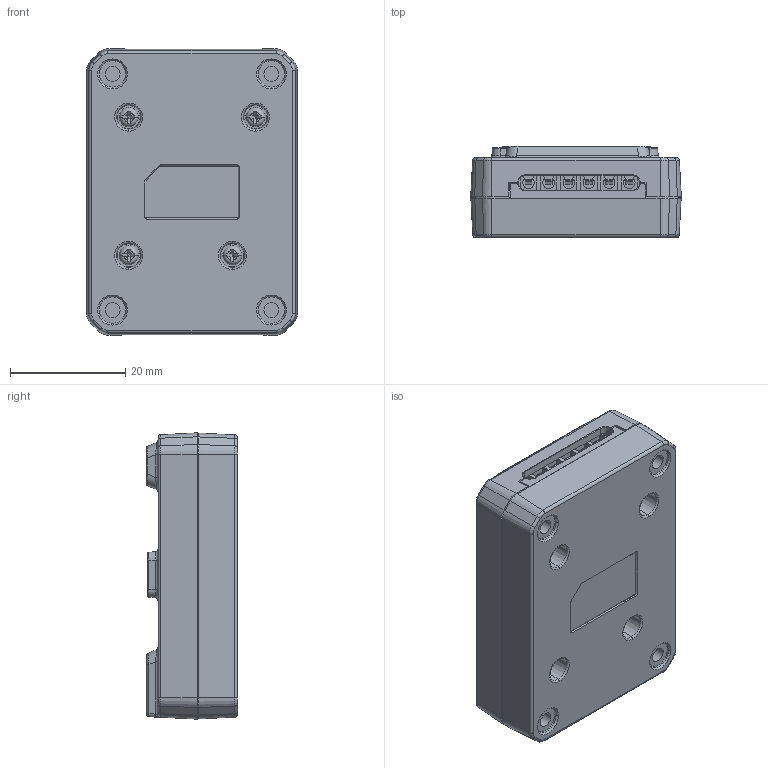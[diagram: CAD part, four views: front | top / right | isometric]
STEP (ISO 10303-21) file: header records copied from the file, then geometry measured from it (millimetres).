
FILE_DESCRIPTION((''),'2;1');
FILE_NAME('PRT0001','2023-06-25T16:19:40',('lizhoupeng'),(''),'CREO PARAMETRIC BY PTC INC, 2020044','CREO PARAMETRIC BY PTC INC, 2020044','');
FILE_SCHEMA(('AUTOMOTIVE_DESIGN { 1 0 10303 214 1 1 1 1 }'));
Products named in the file (1): PRT0001
Bounding box: 36.57 x 15.8 x 49.71 mm (x, y, z)
Volume: 17116.9 mm3; surface area: 18416.1 mm2
Topology: 2 solids, 10 shells, 1794 faces, 4891 edges, 3188 vertices
Faces by surface type: plane 1117, cylinder 363, cone 164, torus 108, bspline 40, sphere 2
Entity records: 63219 total; most frequent: CARTESIAN_POINT 15173, ORIENTED_EDGE 9778, DIRECTION 9216, EDGE_CURVE 4889, VECTOR 3252, LINE 3252, VERTEX_POINT 3188, AXIS2_PLACEMENT_3D 2982
